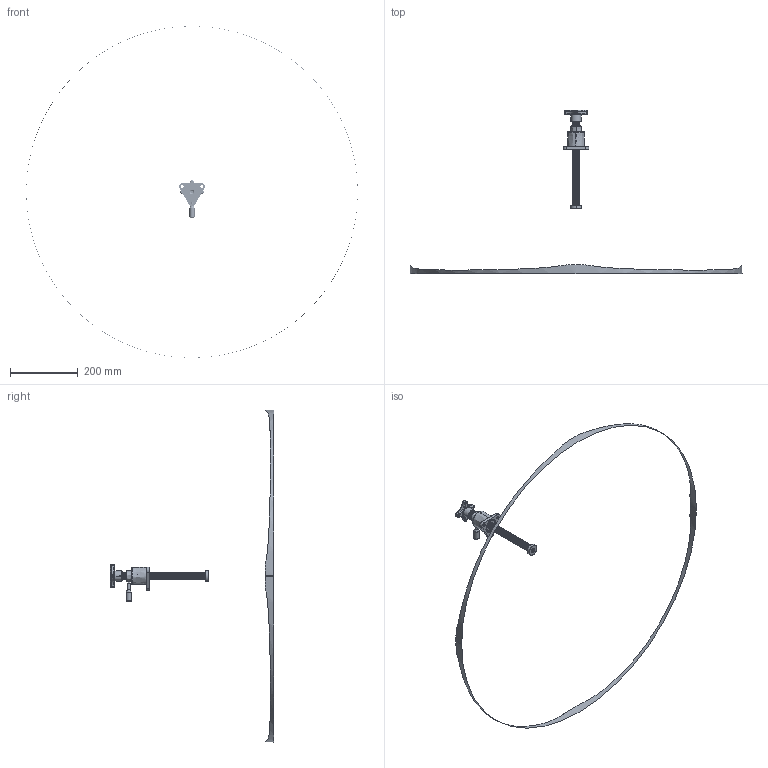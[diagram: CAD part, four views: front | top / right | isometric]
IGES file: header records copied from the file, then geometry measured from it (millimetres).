
Start section: SolidWorks IGES file using analytic representation for surfaces
Global section: file name: C:\Projetos\Grampos\Fusos\KFRF-20\KFRF-20.IGS; native system: SolidWorks 2011; preprocessor: SolidWorks 2011; author: Usuario; date: 120614.134147; units: millimetre
Bounding box: 981.15 x 483.58 x 981.15 mm (x, y, z)
Surface area: 133681.4 mm2 (no closed solid volume)
Topology: 0 solids, 0 shells, 684 faces, 14932 edges, 14914 vertices
Faces by surface type: revolution 415, bspline 269
